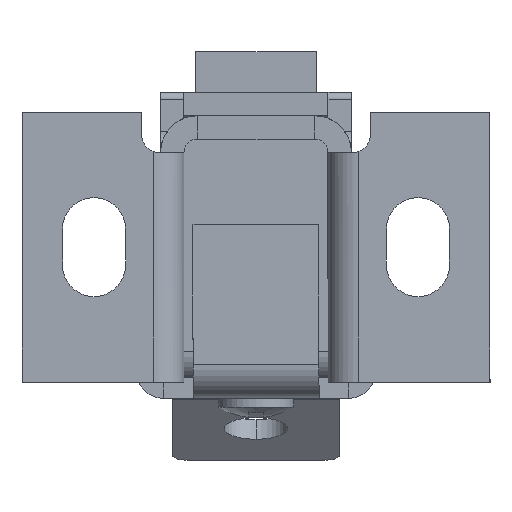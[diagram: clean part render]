
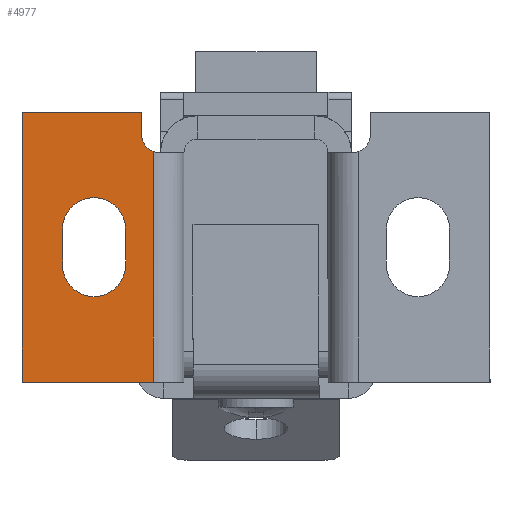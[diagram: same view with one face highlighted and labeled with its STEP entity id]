
A CAD part, front view. The second image highlights one B-rep face of the part: STEP entity #4977.
In plain terms, the highlighted planar face has unit normal (0, -1, 0).
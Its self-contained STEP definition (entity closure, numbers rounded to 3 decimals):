
#17 = VECTOR ( 'NONE', #2197, 1000. ) ;
#345 = CARTESIAN_POINT ( 'NONE',  ( 3.8, 0., 6.25 ) ) ;
#360 = VERTEX_POINT ( 'NONE', #1061 ) ;
#473 = CARTESIAN_POINT ( 'NONE',  ( -3.85, 0., 7.5 ) ) ;
#657 = ORIENTED_EDGE ( 'NONE', *, *, #7495, .T. ) ;
#692 = EDGE_CURVE ( 'NONE', #1601, #1686, #2705, .T. ) ;
#731 = CIRCLE ( 'NONE', #4486, 1. ) ;
#753 = CARTESIAN_POINT ( 'NONE',  ( -3.85, 0., -7.5 ) ) ;
#791 = AXIS2_PLACEMENT_3D ( 'NONE', #4692, #883, #7165 ) ;
#809 = VERTEX_POINT ( 'NONE', #2691 ) ;
#881 = DIRECTION ( 'NONE',  ( 0., 1., 0. ) ) ;
#883 = DIRECTION ( 'NONE',  ( 0., 1., 0. ) ) ;
#1038 = ORIENTED_EDGE ( 'NONE', *, *, #3478, .F. ) ;
#1052 = EDGE_CURVE ( 'NONE', #1686, #6867, #5003, .T. ) ;
#1061 = CARTESIAN_POINT ( 'NONE',  ( 0.15, 0., 2.75 ) ) ;
#1211 = EDGE_CURVE ( 'NONE', #7723, #6731, #1554, .T. ) ;
#1224 = LINE ( 'NONE', #1864, #4725 ) ;
#1335 = VECTOR ( 'NONE', #1837, 1000. ) ;
#1498 = EDGE_CURVE ( 'NONE', #3448, #2535, #731, .T. ) ;
#1511 = ORIENTED_EDGE ( 'NONE', *, *, #6221, .T. ) ;
#1554 = LINE ( 'NONE', #4017, #17 ) ;
#1577 = CARTESIAN_POINT ( 'NONE',  ( 0., 0., 0. ) ) ;
#1601 = VERTEX_POINT ( 'NONE', #3970 ) ;
#1662 = CARTESIAN_POINT ( 'NONE',  ( 2.8, 0., 0. ) ) ;
#1686 = VERTEX_POINT ( 'NONE', #473 ) ;
#1837 = DIRECTION ( 'NONE',  ( 0., 0., 1. ) ) ;
#1864 = CARTESIAN_POINT ( 'NONE',  ( -3.85, 0., -7.5 ) ) ;
#1890 = DIRECTION ( 'NONE',  ( 0., 0., 1. ) ) ;
#2104 = FACE_OUTER_BOUND ( 'NONE', #3947, .T. ) ;
#2113 = DIRECTION ( 'NONE',  ( 0., 1., 0. ) ) ;
#2142 = FACE_BOUND ( 'NONE', #5554, .T. ) ;
#2197 = DIRECTION ( 'NONE',  ( 0., 0., -1. ) ) ;
#2535 = VERTEX_POINT ( 'NONE', #7017 ) ;
#2691 = CARTESIAN_POINT ( 'NONE',  ( 3.45, 0., -7.5 ) ) ;
#2705 = LINE ( 'NONE', #753, #4627 ) ;
#2796 = ORIENTED_EDGE ( 'NONE', *, *, #1052, .F. ) ;
#2833 = CARTESIAN_POINT ( 'NONE',  ( -1.6, 0., 1. ) ) ;
#2989 = AXIS2_PLACEMENT_3D ( 'NONE', #1577, #881, #4690 ) ;
#3050 = ORIENTED_EDGE ( 'NONE', *, *, #3968, .T. ) ;
#3141 = EDGE_CURVE ( 'NONE', #360, #7723, #3425, .T. ) ;
#3190 = EDGE_CURVE ( 'NONE', #6867, #2535, #6562, .T. ) ;
#3229 = DIRECTION ( 'NONE',  ( 0., 0., 1. ) ) ;
#3254 = LINE ( 'NONE', #7601, #7808 ) ;
#3302 = VECTOR ( 'NONE', #4773, 1000. ) ;
#3311 = ORIENTED_EDGE ( 'NONE', *, *, #4276, .T. ) ;
#3352 = DIRECTION ( 'NONE',  ( 0., 0., 1. ) ) ;
#3425 = CIRCLE ( 'NONE', #5387, 1.75 ) ;
#3448 = VERTEX_POINT ( 'NONE', #4210 ) ;
#3478 = EDGE_CURVE ( 'NONE', #809, #1601, #1224, .T. ) ;
#3622 = CARTESIAN_POINT ( 'NONE',  ( 1.9, 0., -1. ) ) ;
#3769 = ORIENTED_EDGE ( 'NONE', *, *, #3141, .T. ) ;
#3947 = EDGE_LOOP ( 'NONE', ( #7770, #2796, #5127, #1038, #3050, #4247 ) ) ;
#3968 = EDGE_CURVE ( 'NONE', #809, #3448, #3254, .T. ) ;
#3970 = CARTESIAN_POINT ( 'NONE',  ( -3.85, 0., -7.5 ) ) ;
#4017 = CARTESIAN_POINT ( 'NONE',  ( 1.9, 0., -1. ) ) ;
#4165 = ORIENTED_EDGE ( 'NONE', *, *, #1211, .T. ) ;
#4207 = CARTESIAN_POINT ( 'NONE',  ( 2.8, 0., 7.5 ) ) ;
#4210 = CARTESIAN_POINT ( 'NONE',  ( 3.45, 0., 5.313 ) ) ;
#4247 = ORIENTED_EDGE ( 'NONE', *, *, #1498, .T. ) ;
#4276 = EDGE_CURVE ( 'NONE', #7382, #5794, #7387, .T. ) ;
#4386 = CARTESIAN_POINT ( 'NONE',  ( -3.85, 0., 7.5 ) ) ;
#4451 = DIRECTION ( 'NONE',  ( 0., 0., 1. ) ) ;
#4486 = AXIS2_PLACEMENT_3D ( 'NONE', #345, #2113, #3352 ) ;
#4575 = CARTESIAN_POINT ( 'NONE',  ( 0.15, 0., 1. ) ) ;
#4627 = VECTOR ( 'NONE', #3229, 1000. ) ;
#4690 = DIRECTION ( 'NONE',  ( 0., 0., 1. ) ) ;
#4692 = CARTESIAN_POINT ( 'NONE',  ( 0.15, 0., 1. ) ) ;
#4698 = VECTOR ( 'NONE', #5126, 1000. ) ;
#4725 = VECTOR ( 'NONE', #6200, 1000. ) ;
#4773 = DIRECTION ( 'NONE',  ( 0., 0., -1. ) ) ;
#4795 = CARTESIAN_POINT ( 'NONE',  ( 1.9, 0., 1. ) ) ;
#4975 = CARTESIAN_POINT ( 'NONE',  ( 0.15, 0., -1. ) ) ;
#4977 = ADVANCED_FACE ( 'NONE', ( #2142, #2104 ), #6440, .F. ) ;
#5003 = LINE ( 'NONE', #4386, #4698 ) ;
#5126 = DIRECTION ( 'NONE',  ( 1., 0., 0. ) ) ;
#5127 = ORIENTED_EDGE ( 'NONE', *, *, #692, .F. ) ;
#5191 = DIRECTION ( 'NONE',  ( 0., 1., 0. ) ) ;
#5297 = CARTESIAN_POINT ( 'NONE',  ( -1.6, 0., -1. ) ) ;
#5387 = AXIS2_PLACEMENT_3D ( 'NONE', #4575, #5191, #4451 ) ;
#5471 = CIRCLE ( 'NONE', #7276, 1.75 ) ;
#5554 = EDGE_LOOP ( 'NONE', ( #4165, #657, #3311, #1511, #3769 ) ) ;
#5794 = VERTEX_POINT ( 'NONE', #2833 ) ;
#6200 = DIRECTION ( 'NONE',  ( -1., 0., 0. ) ) ;
#6221 = EDGE_CURVE ( 'NONE', #5794, #360, #6621, .T. ) ;
#6387 = DIRECTION ( 'NONE',  ( 0., 0., 1. ) ) ;
#6440 = PLANE ( 'NONE',  #2989 ) ;
#6562 = LINE ( 'NONE', #1662, #3302 ) ;
#6621 = CIRCLE ( 'NONE', #791, 1.75 ) ;
#6731 = VERTEX_POINT ( 'NONE', #3622 ) ;
#6867 = VERTEX_POINT ( 'NONE', #4207 ) ;
#7017 = CARTESIAN_POINT ( 'NONE',  ( 2.8, 0., 6.25 ) ) ;
#7165 = DIRECTION ( 'NONE',  ( 0., 0., 1. ) ) ;
#7276 = AXIS2_PLACEMENT_3D ( 'NONE', #4975, #7443, #1890 ) ;
#7382 = VERTEX_POINT ( 'NONE', #5297 ) ;
#7387 = LINE ( 'NONE', #7468, #1335 ) ;
#7443 = DIRECTION ( 'NONE',  ( 0., 1., 0. ) ) ;
#7468 = CARTESIAN_POINT ( 'NONE',  ( -1.6, 0., -1. ) ) ;
#7495 = EDGE_CURVE ( 'NONE', #6731, #7382, #5471, .T. ) ;
#7601 = CARTESIAN_POINT ( 'NONE',  ( 3.45, 0., -7.5 ) ) ;
#7723 = VERTEX_POINT ( 'NONE', #4795 ) ;
#7770 = ORIENTED_EDGE ( 'NONE', *, *, #3190, .F. ) ;
#7808 = VECTOR ( 'NONE', #6387, 1000. ) ;
